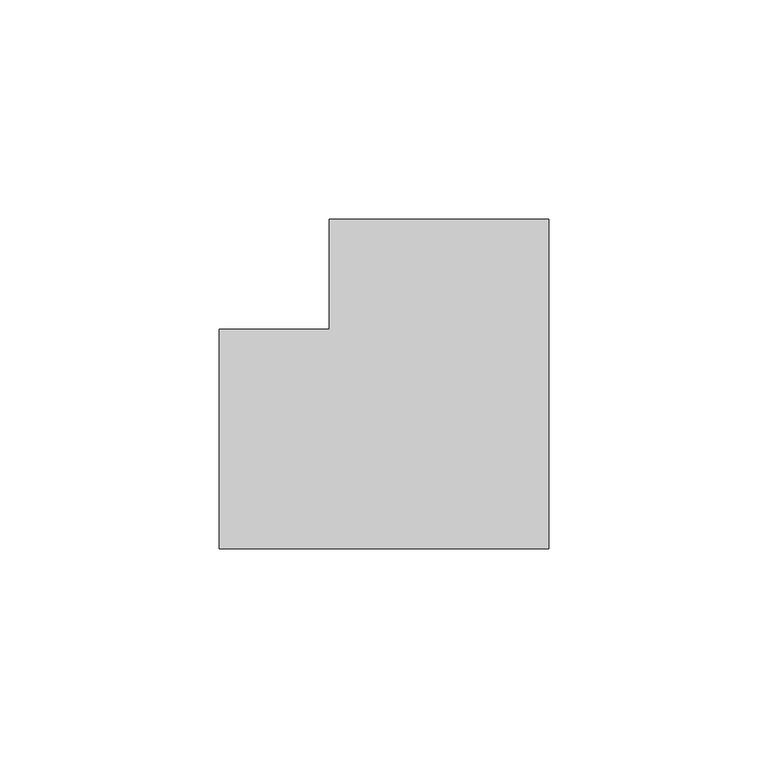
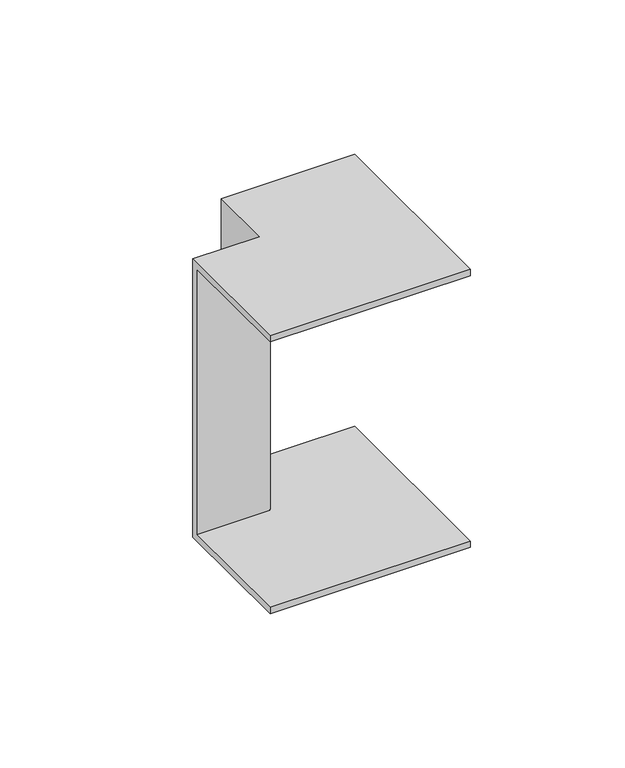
"""IFC4 building model written with IfcOpenShell, lengths in millimetres: cable carrier fitting geometry, КНС_УголВнешний_ILF_DKC : Белый."""

import ifcopenshell
import ifcopenshell.guid

model = None  # the IFC model being written
_history = None  # IfcOwnerHistory: only IFC2X3 demands one
_inside = {}  # id of a spatial element -> (the spatial element, [elements in it])
_under = {}  # id of a project, library or spatial element -> (it, [spatial elements below it])
_declared = {}  # id of a project -> (the project, [libraries it declares])
_typed = {}  # id of a type object -> (the type object, [elements of that type])
_made_of = {}  # id of a material, layer set ... -> (it, [elements and type objects made of it])


def new_model(schema):
    """Start an empty IFC model of exactly this schema.

    Asked for "IFC4X3", IfcOpenShell would pick the latest addendum, in which some entities
    have other attributes; the version numbers below select the first issue.
    IFC2X3 requires an IfcOwnerHistory on every rooted entity: one is made here for all.
    """
    global model, _history
    if schema == "IFC4X3":
        model = ifcopenshell.file(schema_version=(4, 3, 0, 0))
    else:
        model = ifcopenshell.file(schema=schema)
    _inside.clear()
    _under.clear()
    _declared.clear()
    _typed.clear()
    _made_of.clear()
    _history = None
    if model.schema == "IFC2X3":
        org = make("IfcOrganization", Name="unknown")
        user = make(
            "IfcPersonAndOrganization",
            ThePerson=make("IfcPerson", FamilyName="unknown"),
            TheOrganization=org,
        )
        app = make(
            "IfcApplication",
            ApplicationDeveloper=org,
            Version="unknown",
            ApplicationFullName="unknown",
            ApplicationIdentifier="unknown",
        )
        _history = make(
            "IfcOwnerHistory",
            OwningUser=user,
            OwningApplication=app,
            ChangeAction="ADDED",
            CreationDate=0,
        )
    return model


def make(cls, **values):
    """One entity of the class cls with the attributes given. An attribute that is None is left unset."""
    return model.create_entity(
        cls, **{name: value for name, value in values.items() if value is not None}
    )


def rooted(cls, **values):
    """An entity with a GlobalId (a new one), such as an element, a storey or a relation."""
    return make(cls, GlobalId=ifcopenshell.guid.new(), OwnerHistory=_history, **values)


def si_unit(unit_type, name, prefix=None):
    """IfcSIUnit, for example si_unit("LENGTHUNIT", "METRE", prefix="MILLI")."""
    return make("IfcSIUnit", UnitType=unit_type, Prefix=prefix, Name=name)


def assignment(units):
    """IfcUnitAssignment: the units of a project."""
    return None if units is None else make("IfcUnitAssignment", Units=units)


def point(xyz):
    """IfcCartesianPoint."""
    return None if xyz is None else make("IfcCartesianPoint", Coordinates=xyz)


def direction(xyz):
    """IfcDirection."""
    return None if xyz is None else make("IfcDirection", DirectionRatios=xyz)


def frame(location, z_axis=None, x_axis=None):
    """IfcAxis2Placement3D, a coordinate frame: its origin and axes. An axis left out is left unset."""
    return make(
        "IfcAxis2Placement3D",
        Location=point(location),
        Axis=direction(z_axis),
        RefDirection=direction(x_axis),
    )


def origin():
    """The frame at (0, 0, 0) with its axes left unset."""
    return frame((0.0, 0.0, 0.0))


def place(relative_to, where):
    """IfcLocalPlacement: puts the frame where relative to a parent placement (None: the world)."""
    return make(
        "IfcLocalPlacement", PlacementRelTo=relative_to, RelativePlacement=where
    )


def context(
    kind, dimensions, precision=None, world=None, true_north=None, identifier=None
):
    """IfcGeometricRepresentationContext, for example the 3D "Model" context."""
    return make(
        "IfcGeometricRepresentationContext",
        ContextIdentifier=identifier,
        ContextType=kind,
        CoordinateSpaceDimension=dimensions,
        Precision=precision,
        WorldCoordinateSystem=world,
        TrueNorth=true_north,
    )


def project(units=None, contexts=None):
    """IfcProject with its units and contexts."""
    return rooted(
        "IfcProject",
        Name="project",
        RepresentationContexts=contexts,
        UnitsInContext=assignment(units),
    )


def spatial(cls, under=None, at=None, **own):
    """A site, building, storey or space (cls), placed at a placement, below another one or the project."""
    s = rooted(cls, ObjectPlacement=at, **own)
    if under is not None:
        _under.setdefault(under.id(), (under, []))[1].append(s)
    return s


def faces_of(points, faces, orient=None, outer=None):
    """IfcFace entities. A face is a list of loops; a loop is a list of indices into points, from 0.

    orient and outer hold one flag for each loop. By default every Orientation is true, the
    first loop of a face is its IfcFaceOuterBound and the others are IfcFaceBound.
    """
    made = []
    for i, loops in enumerate(faces):
        bounds = []
        for j, loop in enumerate(loops):
            is_outer = j == 0 if outer is None else outer[i][j]
            bounds.append(
                make(
                    "IfcFaceOuterBound" if is_outer else "IfcFaceBound",
                    Bound=make("IfcPolyLoop", Polygon=[points[k] for k in loop]),
                    Orientation=True if orient is None else orient[i][j],
                )
            )
        made.append(make("IfcFace", Bounds=bounds))
    return made


def faceted_brep(points, faces, orient=None, outer=None, voids=None):
    """IfcFacetedBrep: a solid bounded by flat faces; with voids (closed shells), ...WithVoids."""
    shared = [point(p) for p in points]
    hull = make("IfcClosedShell", CfsFaces=faces_of(shared, faces, orient, outer))
    if voids is None:
        return make("IfcFacetedBrep", Outer=hull)
    return make(
        "IfcFacetedBrepWithVoids",
        Outer=hull,
        Voids=[
            make(cls, CfsFaces=faces_of(shared, fs, o, b)) for cls, fs, o, b in voids
        ],
    )


def shape(context_of_items, identifier, shape_type, items):
    """IfcShapeRepresentation: the items that make up one representation, for example the "Body"."""
    return make(
        "IfcShapeRepresentation",
        ContextOfItems=context_of_items,
        RepresentationIdentifier=identifier,
        RepresentationType=shape_type,
        Items=items,
    )


def source(mapping_origin, context_of_items, identifier, shape_type, items):
    """IfcRepresentationMap: a shape defined once, which mapped items show again and again."""
    return make(
        "IfcRepresentationMap",
        MappingOrigin=mapping_origin,
        MappedRepresentation=shape(context_of_items, identifier, shape_type, items),
    )


def transform(
    local_origin,
    x_axis=None,
    y_axis=None,
    z_axis=None,
    scale=None,
    scale2=None,
    scale3=None,
    uniform=True,
):
    """IfcCartesianTransformationOperator3D, or its non-uniform kind. x_axis, y_axis, z_axis: its Axis1, 2, 3."""
    if uniform:
        return make(
            "IfcCartesianTransformationOperator3D",
            Axis1=direction(x_axis),
            Axis2=direction(y_axis),
            LocalOrigin=point(local_origin),
            Scale=scale,
            Axis3=direction(z_axis),
        )
    return make(
        "IfcCartesianTransformationOperator3DnonUniform",
        Axis1=direction(x_axis),
        Axis2=direction(y_axis),
        LocalOrigin=point(local_origin),
        Scale=scale,
        Axis3=direction(z_axis),
        Scale2=scale2,
        Scale3=scale3,
    )


def mapped(mapping_source, mapping_target):
    """IfcMappedItem: shows the shape of a source again, moved by a transform."""
    return make(
        "IfcMappedItem", MappingSource=mapping_source, MappingTarget=mapping_target
    )


def made_of(thing, what):
    """Note that an element or type object is made of a material, layer set ...; save() writes the relation."""
    if what is not None:
        _made_of.setdefault(what.id(), (what, []))[1].append(thing)
    return thing


def element(
    cls,
    number,
    at=None,
    inside=None,
    cuts=None,
    type_object=None,
    material=None,
    context=None,
    identifier="Body",
    shape_type=None,
    held_by="IfcProductDefinitionShape",
    body=None,
    shapes=None,
    **own,
):
    """One element of the class cls, such as IfcWall. Its Tag is "e" and its number.

    at: its placement. inside: the storey or other place that contains it. cuts: it is an
    opening in that element (IfcRelVoidsElement). A single representation is given by context,
    identifier, shape_type and body (its items); several are given by shapes. held_by: the class
    of the entity that holds the representations. save() writes the other relations.
    """
    e = rooted(cls, Tag="e%d" % number, ObjectPlacement=at, **own)
    if body is not None:
        shapes = [shape(context, identifier, shape_type, body)]
    if shapes is not None:
        e.Representation = make(held_by, Representations=shapes)
    if inside is not None:
        _inside.setdefault(inside.id(), (inside, []))[1].append(e)
    if cuts is not None:
        rooted(
            "IfcRelVoidsElement", RelatingBuildingElement=cuts, RelatedOpeningElement=e
        )
    if type_object is not None:
        _typed.setdefault(type_object.id(), (type_object, []))[1].append(e)
    return made_of(e, material)


def aggregate(whole, parts):
    """IfcRelAggregates: a whole, such as a stair, and the parts it consists of."""
    return rooted("IfcRelAggregates", RelatingObject=whole, RelatedObjects=parts)


def save(model, path):
    """Write the relations noted so far, then the file.

    IfcRelAggregates (storeys below a building ...), IfcRelContainedInSpatialStructure (elements
    in a storey), IfcRelDefinesByType, IfcRelAssociatesMaterial and IfcRelDeclares: one each for
    every whole, place, type object, material and project.
    """
    for whole, parts in _under.values():
        aggregate(whole, parts)
    for where, things in _inside.values():
        rooted(
            "IfcRelContainedInSpatialStructure",
            RelatedElements=things,
            RelatingStructure=where,
        )
    for kind, things in _typed.values():
        rooted("IfcRelDefinesByType", RelatedObjects=things, RelatingType=kind)
    for what, things in _made_of.values():
        rooted("IfcRelAssociatesMaterial", RelatedObjects=things, RelatingMaterial=what)
    for by, libraries in _declared.values():
        rooted("IfcRelDeclares", RelatingContext=by, RelatedDefinitions=libraries)
    model.write(path)


def cable_carrier_fitting_70b8df70(model_context):
    return source(origin(), model_context, "Body", "Brep", [
        faceted_brep([(-50.0, 25.0, 55.0), (-50.0, 25.0, -55.0), (-50.0, -25.0, -55.0), (-50.0, -25.0, -52.5), (-50.0, 22.5, -52.5), (-50.0, 22.5, 52.5), (-50.0, -25.0, 52.5), (-50.0, -25.0, 55.0), (-25.0, 50.0, 55.0), (25.0, 50.0, 55.0), (25.0, 50.0, 52.5), (-22.5, 50.0, 52.5), (-22.5, 50.0, -52.5), (25.0, 50.0, -52.5), (25.0, 50.0, -55.0), (-25.0, 50.0, -55.0), (-25.0, 25.0, 55.0), (-25.0, 25.0, -55.0), (25.0, -25.0, -55.0), (25.0, -25.0, -52.5), (-22.5, 22.5, -52.5), (-22.5, 22.5, 52.5), (25.0, -25.0, 52.5), (25.0, -25.0, 55.0)], [[[0, 1, 2, 3, 4, 5, 6, 7]], [[8, 9, 10, 11, 12, 13, 14, 15]], [[1, 0, 16, 17]], [[2, 1, 17, 15, 14, 18]], [[3, 2, 18, 19]], [[4, 3, 19, 13, 12, 20]], [[5, 4, 20, 21]], [[6, 5, 21, 11, 10, 22]], [[7, 6, 22, 23]], [[0, 7, 23, 9, 8, 16]], [[17, 16, 8, 15]], [[19, 18, 14, 13]], [[21, 20, 12, 11]], [[23, 22, 10, 9]]]),
    ])


if __name__ == "__main__":
    model = new_model("IFC4")
    model_context = context("Model", 3, world=origin())
    ifc_project = project(units=[si_unit("LENGTHUNIT", "METRE", prefix="MILLI")], contexts=[model_context])
    site = spatial("IfcSite", under=ifc_project)
    building = spatial("IfcBuilding", under=site)
    placement = place(None, origin())
    cable_carrier_fitting_shape = cable_carrier_fitting_70b8df70(model_context)
    element("IfcCableCarrierFitting", 1, ObjectType="КНС_УголВнешний_ILF_DKC : Белый", at=placement, inside=building, context=model_context, shape_type="MappedRepresentation", body=[
        mapped(cable_carrier_fitting_shape, transform((0.0, 0.0, 0.0), x_axis=(1.0, 0.0, 0.0), y_axis=(0.0, 1.0, 0.0), z_axis=(0.0, 0.0, 1.0))),
    ])
    save(model, "model.ifc")
